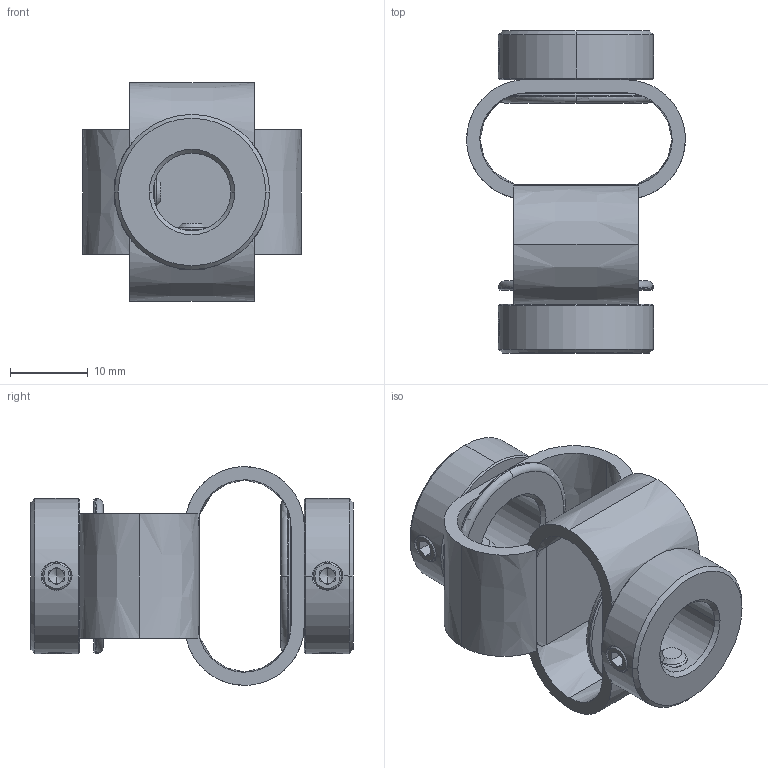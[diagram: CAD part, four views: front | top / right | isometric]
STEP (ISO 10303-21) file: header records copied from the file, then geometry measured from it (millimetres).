
FILE_DESCRIPTION (( 'STEP AP203' ), '1' );
FILE_NAME ('LS-D-D27L40-10-11.STEP', '2021-10-28T06:40:09', ( '' ), ( '' ), 'SwSTEP 2.0', 'SolidWorks 2018', '' );
FILE_SCHEMA (( 'CONFIG_CONTROL_DESIGN' ));
Length unit declared in the file: millimetre
Products named in the file (1): LS-D-D27L40-10-11
Bounding box: 28.2 x 41.54 x 28.2 mm (x, y, z)
Volume: 6297 mm3; surface area: 6685 mm2
Topology: 1 solids, 1 shells, 226 faces, 574 edges, 354 vertices
Faces by surface type: cone 86, plane 86, cylinder 34, bspline 16, torus 4
Entity records: 8687 total; most frequent: CARTESIAN_POINT 3369, ORIENTED_EDGE 1132, DIRECTION 1034, EDGE_CURVE 566, AXIS2_PLACEMENT_3D 409, VERTEX_POINT 354, EDGE_LOOP 254, ADVANCED_FACE 226
